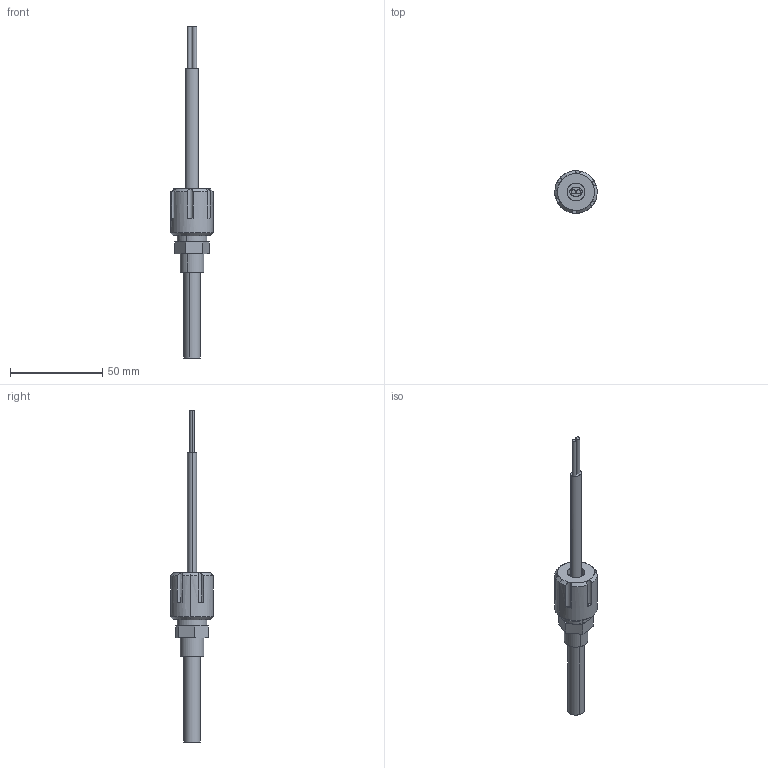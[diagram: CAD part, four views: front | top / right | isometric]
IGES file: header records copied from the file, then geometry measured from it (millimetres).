
Start section: SolidWorks IGES file using analytic representation for surfaces
Global section: file name: S:\Product Visuals\FILES FOR PUBLICATION\SOLID MODELS FOR PUBLICATION\60-shuttle\igs\stroke-detection\sf-fiber-optic-stroke-detect.IGS; native system: SolidWorks 2012; preprocessor: SolidWorks 2012; author: karen.bodily; date: 121121.155106; units: inch
Bounding box: 23.1 x 23.09 x 180.21 mm (x, y, z)
Surface area: 10643.6 mm2 (no closed solid volume)
Topology: 0 solids, 0 shells, 67 faces, 991 edges, 991 vertices
Faces by surface type: bspline 36, revolution 31
